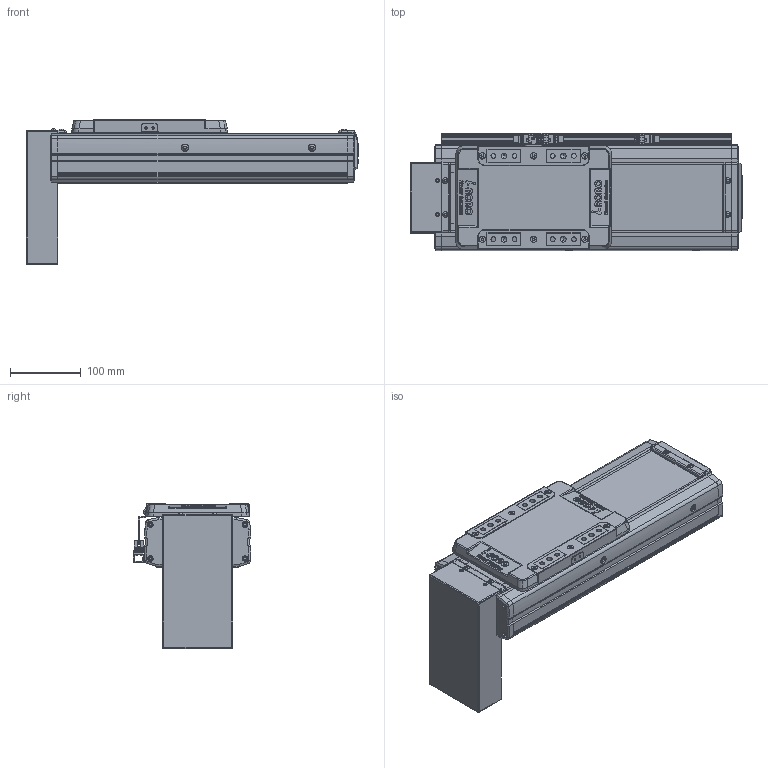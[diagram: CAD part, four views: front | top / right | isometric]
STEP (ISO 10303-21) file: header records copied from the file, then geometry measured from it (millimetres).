
FILE_DESCRIPTION(('STEP AP214'),'1');
FILE_NAME('Z:/Web/3D/SAN150/2013.04 (STP.)/SAN150ㅁㅁ-150PB+3SL.stp','2013-05-08T02:45:44',(' '),(' '),'Spatial InterOp 3D',' ',' ');
FILE_SCHEMA(('automotive_design'));
Length unit declared in the file: millimetre
Products named in the file (58): SLBL-SAN150; SLCV-SAN150; FHCS M4.0 x 8.0; BHCS M4.0 x 10.0; SFX-SAN150; RRCV-SAN150; FRBL-SAN150; Spacer; RN15; FRCV-SAN150; Screw 20; BASE-SAN150-000L ; SUS COVER; 스크루 : Round - M5.0 x 6.0; PB; 스크루 : Round - M3.0 x 6.0; M3.0 x 6.0; SRL-16x17-360L; SGD-SAN150; EE-SX674; SBK-SX674-352
Bounding box: 470 x 166 x 205.4 mm (x, y, z)
Volume: 3843987.5 mm3; surface area: 692522.9 mm2
Topology: 58 solids, 58 shells, 2516 faces, 6458 edges, 4163 vertices
Faces by surface type: plane 1380, cylinder 789, cone 234, sphere 80, bspline 21, torus 12
Entity records: 99178 total; most frequent: CARTESIAN_POINT 15369, DIRECTION 13660, ORIENTED_EDGE 12732, EDGE_CURVE 6366, AXIS2_PLACEMENT_3D 4813, VERTEX_POINT 4163, LINE 4034, VECTOR 4034
